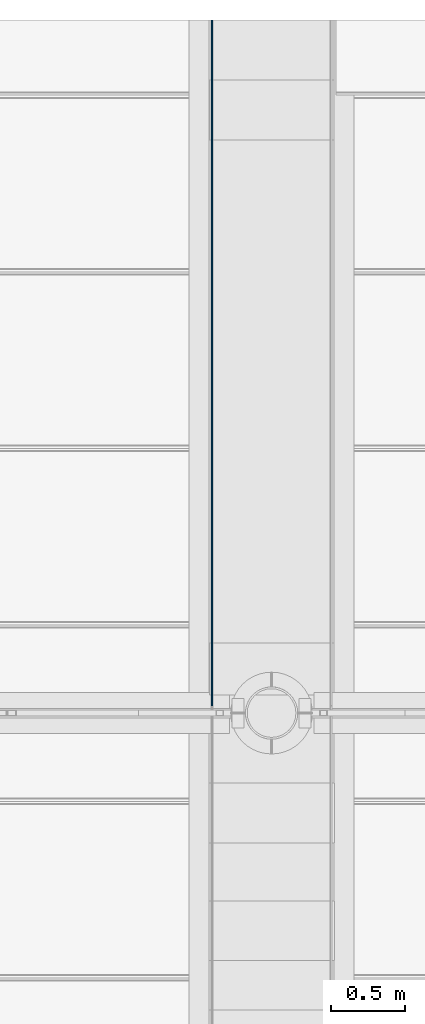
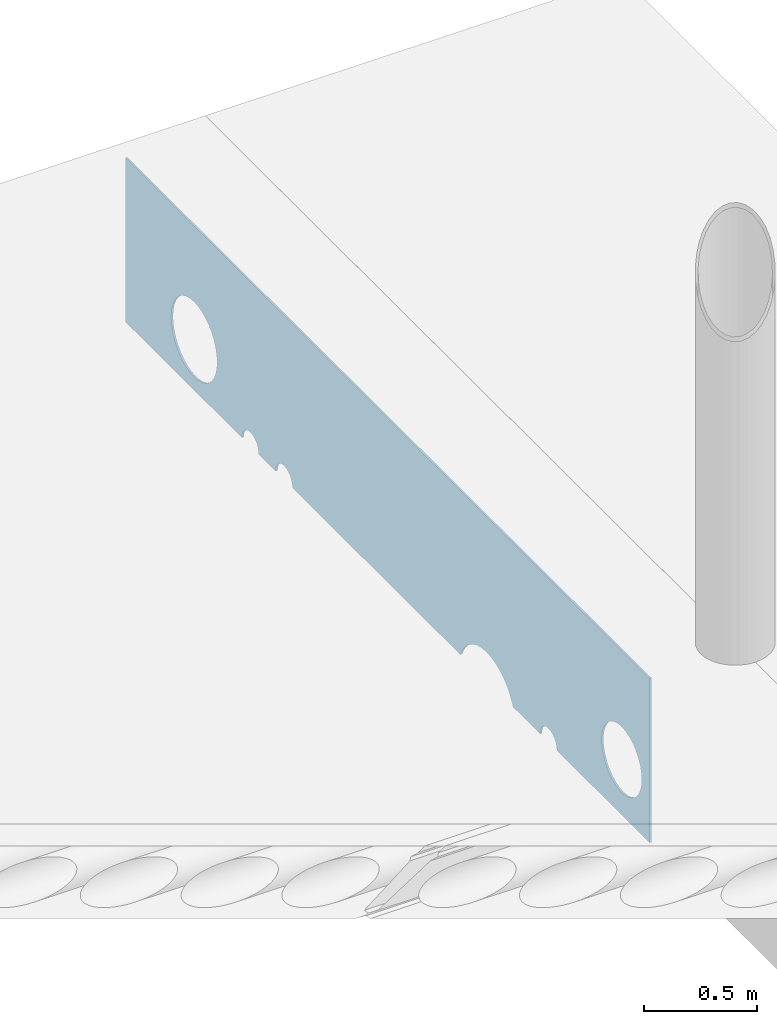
# One storey, part 11 of 21: 1 beam.
"""IFC2X3 building model written with IfcOpenShell, lengths in millimetres."""

from ifc_helpers import new_model, entity, si_unit, converted_unit, derived_unit, direction, frame, origin_with_axes, place, context, subcontext, project, spatial, faceted_brep, type_object, element, save


model = new_model("IFC2X3")

# Units and contexts
model_context = context("Model", 3, precision=0.01, world=frame((0.0, 4.29681676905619e-09, 0.0)), true_north=direction((4.01073788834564e-13, 1.0)))
plan_context = context("Plan", 3, precision=0.01, world=frame((0.0, 4.29681676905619e-09, 0.0)), true_north=direction((4.01073788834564e-13, 1.0)))
body_context = subcontext(model_context, "Body", "Model", "MODEL_VIEW")
ifc_project = project(units=[converted_unit("PLANEANGLEUNIT", "DEGREE", entity("IfcPositiveLengthMeasure", 0.0174532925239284), si_unit("PLANEANGLEUNIT", "RADIAN"), dimensions=[0, 0, 0, 0, 0, 0, 0]), si_unit("AREAUNIT", "SQUARE_METRE"), si_unit("LENGTHUNIT", "METRE", prefix="MILLI"), si_unit("MASSUNIT", "GRAM", prefix="KILO"), si_unit("POWERUNIT", "WATT"), si_unit("PRESSUREUNIT", "PASCAL", prefix="KILO"), si_unit("FORCEUNIT", "NEWTON", prefix="KILO"), si_unit("ELECTRICVOLTAGEUNIT", "VOLT"), si_unit("ELECTRICCURRENTUNIT", "AMPERE"), si_unit("THERMODYNAMICTEMPERATUREUNIT", "DEGREE_CELSIUS"), si_unit("TIMEUNIT", "SECOND"), si_unit("VOLUMEUNIT", "CUBIC_METRE"), derived_unit("LINEARVELOCITYUNIT", [(si_unit("LENGTHUNIT", "METRE"), 1), (si_unit("TIMEUNIT", "SECOND"), -1)]), derived_unit("VOLUMETRICFLOWRATEUNIT", [(si_unit("VOLUMEUNIT", "CUBIC_METRE"), 1), (si_unit("TIMEUNIT", "SECOND"), -1)]), derived_unit("THERMALTRANSMITTANCEUNIT", [(si_unit("POWERUNIT", "WATT"), 1), (si_unit("THERMODYNAMICTEMPERATUREUNIT", "KELVIN"), -1), (si_unit("AREAUNIT", "SQUARE_METRE"), -1)]), derived_unit("SOUNDPRESSUREUNIT", [(si_unit("PRESSUREUNIT", "PASCAL"), 1)])], contexts=[model_context, plan_context])

# Site, building, storey
site_placement = place(None, frame((0.0, -4.29681676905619e-09, 0.0), z_axis=(0.0, 0.0, 1.0), x_axis=(1.0, 0.0, 0.0)))
site = spatial("IfcSite", under=ifc_project, at=site_placement, Name="Gardermoen", CompositionType="ELEMENT")
building_placement = place(site_placement, frame((0.0, 4.29681676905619e-09, 0.0), z_axis=(0.0, 0.0, 1.0), x_axis=(1.0, 0.0, 0.0)))
building = spatial("IfcBuilding", under=site, at=building_placement, Name="TS", CompositionType="ELEMENT")
storey_placement = place(building_placement, origin_with_axes())
storey = spatial("IfcBuildingStorey", under=building, at=storey_placement, Name="F", CompositionType="ELEMENT", Elevation=0.0)

# Beam
beam_type = type_object("IfcBeamType", Name="1470*10", PredefinedType="NOTDEFINED")
beam_placement = place(storey_placement, frame((726595.0, 441550.0, 210055.0), z_axis=(0.0, 0.0, 1.0), x_axis=(0.0, 1.0, 0.0)))
element("IfcBeam", 1, at=beam_placement, inside=storey, type_object=beam_type, Name="STÅLBJELKE", ObjectType="1470*10", context=body_context, shape_type="Brep", body=[
    faceted_brep([(4661.4244638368, 5.0, 735.0), (4661.4244638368, -5.0, 735.0), (0.0, -5.0, 735.0), (0.0, 5.0, 735.0), (0.0, -5.0, -155.0), (0.0, 5.0, -155.0), (428.5, -5.0, 145.0), (428.5, 5.0, 145.0), (425.070172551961, 5.0, 179.823622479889), (425.070172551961, -5.0, 179.823622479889), (425.070172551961, -5.0, 110.176377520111), (425.070172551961, 5.0, 110.176377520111), (414.912496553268, -5.0, 76.6910073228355), (414.912496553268, 5.0, 76.6910073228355), (398.417325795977, -5.0, 45.8307134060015), (398.417325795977, 5.0, 45.8307134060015), (376.218560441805, -5.0, 18.7814395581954), (376.218560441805, 5.0, 18.7814395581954), (349.169286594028, -5.0, -3.41732579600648), (349.169286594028, 5.0, -3.41732579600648), (318.308992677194, -5.0, -19.9124965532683), (318.308992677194, 5.0, -19.9124965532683), (284.82362247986, -5.0, -30.0701725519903), (284.82362247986, 5.0, -30.0701725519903), (250.0, -5.0, -33.5), (250.0, 5.0, -33.5), (215.17637752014, -5.0, -30.0701725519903), (215.17637752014, 5.0, -30.0701725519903), (181.691007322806, -5.0, -19.9124965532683), (181.691007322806, 5.0, -19.9124965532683), (150.830713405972, -5.0, -3.41732579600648), (150.830713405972, 5.0, -3.41732579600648), (123.781439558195, -5.0, 18.7814395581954), (123.781439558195, 5.0, 18.7814395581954), (101.582674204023, -5.0, 45.8307134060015), (101.582674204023, 5.0, 45.8307134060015), (85.0875034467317, -5.0, 76.6910073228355), (85.0875034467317, 5.0, 76.6910073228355), (74.9298274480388, -5.0, 110.176377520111), (74.9298274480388, 5.0, 110.176377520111), (71.5, -5.0, 145.0), (71.5, 5.0, 145.0), (74.9298274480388, -5.0, 179.823622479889), (74.9298274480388, 5.0, 179.823622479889), (85.0875034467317, -5.0, 213.308992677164), (85.0875034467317, 5.0, 213.308992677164), (101.582674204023, -5.0, 244.169286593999), (101.582674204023, 5.0, 244.169286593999), (123.781439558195, -5.0, 271.218560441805), (123.781439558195, 5.0, 271.218560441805), (150.830713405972, -5.0, 293.417325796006), (150.830713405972, 5.0, 293.417325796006), (181.691007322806, -5.0, 309.912496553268), (181.691007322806, 5.0, 309.912496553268), (215.17637752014, -5.0, 320.07017255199), (215.17637752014, 5.0, 320.07017255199), (250.0, -5.0, 323.5), (250.0, 5.0, 323.5), (284.82362247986, -5.0, 320.07017255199), (284.82362247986, 5.0, 320.07017255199), (318.308992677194, -5.0, 309.912496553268), (318.308992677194, 5.0, 309.912496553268), (349.169286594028, -5.0, 293.417325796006), (349.169286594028, 5.0, 293.417325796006), (376.218560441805, -5.0, 271.218560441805), (376.218560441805, 5.0, 271.218560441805), (398.417325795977, -5.0, 244.169286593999), (398.417325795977, 5.0, 244.169286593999), (414.912496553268, -5.0, 213.308992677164), (414.912496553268, 5.0, 213.308992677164), (975.0, -5.0, -155.0), (975.0, 5.0, -155.0), (972.44443697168, 5.0, -135.588571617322), (972.44443697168, -5.0, -135.588571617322), (827.55556302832, -5.0, -135.588571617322), (827.55556302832, 5.0, -135.588571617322), (825.0, 5.0, -155.0), (825.0, -5.0, -155.0), (835.048094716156, -5.0, -117.5), (835.048094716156, 5.0, -117.5), (846.966991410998, -5.0, -101.966991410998), (846.966991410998, 5.0, -101.966991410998), (862.5, -5.0, -90.0480947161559), (862.5, 5.0, -90.0480947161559), (880.588571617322, -5.0, -82.5555630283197), (880.588571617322, 5.0, -82.5555630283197), (900.0, -5.0, -80.0), (900.0, 5.0, -80.0), (919.411428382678, -5.0, -82.5555630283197), (919.411428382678, 5.0, -82.5555630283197), (937.5, -5.0, -90.0480947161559), (937.5, 5.0, -90.0480947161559), (953.033008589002, -5.0, -101.966991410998), (953.033008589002, 5.0, -101.966991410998), (964.951905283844, -5.0, -117.5), (964.951905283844, 5.0, -117.5), (1216.26219191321, 5.0, -155.0), (1216.26219191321, -5.0, -155.0), (1222.79333633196, -5.0, -139.23242256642), (1222.79333633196, 5.0, -139.23242256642), (1243.70066643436, -5.0, -105.114760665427), (1243.70066643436, 5.0, -105.114760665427), (1269.68777079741, -5.0, -74.6877707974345), (1269.68777079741, 5.0, -74.6877707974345), (1300.1147606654, -5.0, -48.7006664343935), (1300.1147606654, 5.0, -48.7006664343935), (1334.23242256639, -5.0, -27.7933363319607), (1334.23242256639, 5.0, -27.7933363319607), (1371.20066643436, -5.0, -12.4805883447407), (1371.20066643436, 5.0, -12.4805883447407), (1410.10921141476, -5.0, -3.13947314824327), (1410.10921141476, 5.0, -3.13947314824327), (1450.0, -5.0, 0.0), (1450.0, 5.0, 0.0), (1489.89078858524, -5.0, -3.13947314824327), (1489.89078858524, 5.0, -3.13947314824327), (1528.79933356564, -5.0, -12.4805883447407), (1528.79933356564, 5.0, -12.4805883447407), (1565.76757743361, -5.0, -27.7933363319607), (1565.76757743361, 5.0, -27.7933363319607), (1599.8852393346, -5.0, -48.7006664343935), (1599.8852393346, 5.0, -48.7006664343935), (1630.31222920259, -5.0, -74.6877707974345), (1630.31222920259, 5.0, -74.6877707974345), (1656.29933356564, -5.0, -105.114760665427), (1656.29933356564, 5.0, -105.114760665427), (1677.20666366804, -5.0, -139.23242256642), (1677.20666366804, 5.0, -139.23242256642), (1683.73780808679, -5.0, -155.0), (1683.73780808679, 5.0, -155.0), (3325.0, -5.0, -155.0), (3325.0, 5.0, -155.0), (3322.44443697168, 5.0, -135.588571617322), (3322.44443697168, -5.0, -135.588571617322), (3177.55556302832, -5.0, -135.588571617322), (3177.55556302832, 5.0, -135.588571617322), (3175.0, 5.0, -155.0), (3175.0, -5.0, -155.0), (3185.04809471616, -5.0, -117.5), (3185.04809471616, 5.0, -117.5), (3196.966991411, -5.0, -101.966991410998), (3196.966991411, 5.0, -101.966991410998), (3212.5, -5.0, -90.0480947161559), (3212.5, 5.0, -90.0480947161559), (3230.58857161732, -5.0, -82.5555630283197), (3230.58857161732, 5.0, -82.5555630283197), (3250.0, -5.0, -80.0), (3250.0, 5.0, -80.0), (3269.41142838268, -5.0, -82.5555630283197), (3269.41142838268, 5.0, -82.5555630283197), (3287.5, -5.0, -90.0480947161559), (3287.5, 5.0, -90.0480947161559), (3303.033008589, -5.0, -101.966991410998), (3303.033008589, 5.0, -101.966991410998), (3314.95190528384, -5.0, -117.5), (3314.95190528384, 5.0, -117.5), (3625.0, -5.0, -155.0), (3625.0, 5.0, -155.0), (3622.44443697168, 5.0, -135.588571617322), (3622.44443697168, -5.0, -135.588571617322), (3477.55556302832, -5.0, -135.588571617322), (3477.55556302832, 5.0, -135.588571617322), (3475.0, 5.0, -155.0), (3475.0, -5.0, -155.0), (3485.04809471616, -5.0, -117.5), (3485.04809471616, 5.0, -117.5), (3496.966991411, -5.0, -101.966991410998), (3496.966991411, 5.0, -101.966991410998), (3512.5, -5.0, -90.0480947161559), (3512.5, 5.0, -90.0480947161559), (3530.58857161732, -5.0, -82.5555630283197), (3530.58857161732, 5.0, -82.5555630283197), (3550.0, -5.0, -80.0), (3550.0, 5.0, -80.0), (3569.41142838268, -5.0, -82.5555630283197), (3569.41142838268, 5.0, -82.5555630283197), (3587.5, -5.0, -90.0480947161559), (3587.5, 5.0, -90.0480947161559), (3603.033008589, -5.0, -101.966991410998), (3603.033008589, 5.0, -101.966991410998), (3614.95190528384, -5.0, -117.5), (3614.95190528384, 5.0, -117.5), (4254.0, -5.0, 120.0), (4254.0, 5.0, 120.0), (4250.90078161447, 5.0, 155.424228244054), (4250.90078161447, -5.0, 155.424228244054), (4250.90078161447, -5.0, 84.5757717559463), (4250.90078161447, 5.0, 84.5757717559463), (4241.69729464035, -5.0, 50.2278907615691), (4241.69729464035, 5.0, 50.2278907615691), (4226.66918237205, -5.0, 18.0), (4226.66918237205, 5.0, 18.0), (4206.27306639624, -5.0, -11.1286723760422), (4206.27306639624, 5.0, -11.1286723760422), (4181.12867237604, -5.0, -36.273066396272), (4181.12867237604, 5.0, -36.273066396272), (4152.0, -5.0, -56.6691823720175), (4152.0, 5.0, -56.6691823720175), (4119.77210923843, -5.0, -71.6972946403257), (4119.77210923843, 5.0, -71.6972946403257), (4085.42422824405, -5.0, -80.9007816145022), (4085.42422824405, 5.0, -80.9007816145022), (4050.0, -5.0, -84.0), (4050.0, 5.0, -84.0), (4014.57577175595, -5.0, -80.9007816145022), (4014.57577175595, 5.0, -80.9007816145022), (3980.22789076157, -5.0, -71.6972946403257), (3980.22789076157, 5.0, -71.6972946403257), (3948.0, -5.0, -56.6691823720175), (3948.0, 5.0, -56.6691823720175), (3918.87132762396, -5.0, -36.273066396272), (3918.87132762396, 5.0, -36.273066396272), (3893.72693360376, -5.0, -11.1286723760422), (3893.72693360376, 5.0, -11.1286723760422), (3873.33081762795, -5.0, 18.0), (3873.33081762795, 5.0, 18.0), (3858.3027053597, -5.0, 50.2278907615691), (3858.3027053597, 5.0, 50.2278907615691), (3849.09921838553, -5.0, 84.5757717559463), (3849.09921838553, 5.0, 84.5757717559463), (3846.0, -5.0, 120.0), (3846.0, 5.0, 120.0), (3849.09921838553, -5.0, 155.424228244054), (3849.09921838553, 5.0, 155.424228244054), (3858.3027053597, -5.0, 189.772109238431), (3858.3027053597, 5.0, 189.772109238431), (3873.33081762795, -5.0, 222.0), (3873.33081762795, 5.0, 222.0), (3893.72693360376, -5.0, 251.128672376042), (3893.72693360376, 5.0, 251.128672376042), (3918.87132762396, -5.0, 276.273066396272), (3918.87132762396, 5.0, 276.273066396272), (3948.0, -5.0, 296.669182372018), (3948.0, 5.0, 296.669182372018), (3980.22789076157, -5.0, 311.697294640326), (3980.22789076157, 5.0, 311.697294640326), (4014.57577175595, -5.0, 320.900781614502), (4014.57577175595, 5.0, 320.900781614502), (4050.0, -5.0, 324.0), (4050.0, 5.0, 324.0), (4085.42422824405, -5.0, 320.900781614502), (4085.42422824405, 5.0, 320.900781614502), (4119.77210923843, -5.0, 311.697294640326), (4119.77210923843, 5.0, 311.697294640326), (4152.0, -5.0, 296.669182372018), (4152.0, 5.0, 296.669182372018), (4181.12867237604, -5.0, 276.273066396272), (4181.12867237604, 5.0, 276.273066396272), (4206.27306639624, -5.0, 251.128672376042), (4206.27306639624, 5.0, 251.128672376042), (4226.66918237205, -5.0, 222.0), (4226.66918237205, 5.0, 222.0), (4241.69729464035, -5.0, 189.772109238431), (4241.69729464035, 5.0, 189.772109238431), (4661.4244638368, -5.0, -155.0), (4661.4244638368, 5.0, -155.0)], [[[0, 1, 2, 3]], [[4, 5, 3, 2]], [[6, 7, 8, 9]], [[10, 11, 7, 6]], [[12, 13, 11, 10]], [[14, 15, 13, 12]], [[16, 17, 15, 14]], [[18, 19, 17, 16]], [[20, 21, 19, 18]], [[22, 23, 21, 20]], [[24, 25, 23, 22]], [[26, 27, 25, 24]], [[28, 29, 27, 26]], [[30, 31, 29, 28]], [[32, 33, 31, 30]], [[34, 35, 33, 32]], [[36, 37, 35, 34]], [[38, 39, 37, 36]], [[40, 41, 39, 38]], [[42, 43, 41, 40]], [[44, 45, 43, 42]], [[46, 47, 45, 44]], [[48, 49, 47, 46]], [[50, 51, 49, 48]], [[52, 53, 51, 50]], [[54, 55, 53, 52]], [[56, 57, 55, 54]], [[58, 59, 57, 56]], [[60, 61, 59, 58]], [[62, 63, 61, 60]], [[64, 65, 63, 62]], [[66, 67, 65, 64]], [[68, 69, 67, 66]], [[9, 8, 69, 68]], [[70, 71, 72, 73]], [[74, 75, 76, 77]], [[78, 79, 75, 74]], [[80, 81, 79, 78]], [[82, 83, 81, 80]], [[84, 85, 83, 82]], [[86, 87, 85, 84]], [[88, 89, 87, 86]], [[90, 91, 89, 88]], [[92, 93, 91, 90]], [[94, 95, 93, 92]], [[73, 72, 95, 94]], [[96, 97, 98, 99]], [[100, 101, 99, 98]], [[102, 103, 101, 100]], [[104, 105, 103, 102]], [[106, 107, 105, 104]], [[108, 109, 107, 106]], [[110, 111, 109, 108]], [[112, 113, 111, 110]], [[114, 115, 113, 112]], [[116, 117, 115, 114]], [[118, 119, 117, 116]], [[120, 121, 119, 118]], [[122, 123, 121, 120]], [[124, 125, 123, 122]], [[126, 127, 125, 124]], [[128, 129, 127, 126]], [[130, 131, 132, 133]], [[134, 135, 136, 137]], [[138, 139, 135, 134]], [[140, 141, 139, 138]], [[142, 143, 141, 140]], [[144, 145, 143, 142]], [[146, 147, 145, 144]], [[148, 149, 147, 146]], [[150, 151, 149, 148]], [[152, 153, 151, 150]], [[154, 155, 153, 152]], [[133, 132, 155, 154]], [[156, 157, 158, 159]], [[160, 161, 162, 163]], [[164, 165, 161, 160]], [[166, 167, 165, 164]], [[168, 169, 167, 166]], [[170, 171, 169, 168]], [[172, 173, 171, 170]], [[174, 175, 173, 172]], [[176, 177, 175, 174]], [[178, 179, 177, 176]], [[180, 181, 179, 178]], [[159, 158, 181, 180]], [[182, 183, 184, 185]], [[186, 187, 183, 182]], [[188, 189, 187, 186]], [[190, 191, 189, 188]], [[192, 193, 191, 190]], [[194, 195, 193, 192]], [[196, 197, 195, 194]], [[198, 199, 197, 196]], [[200, 201, 199, 198]], [[202, 203, 201, 200]], [[204, 205, 203, 202]], [[206, 207, 205, 204]], [[208, 209, 207, 206]], [[210, 211, 209, 208]], [[212, 213, 211, 210]], [[214, 215, 213, 212]], [[216, 217, 215, 214]], [[218, 219, 217, 216]], [[220, 221, 219, 218]], [[222, 223, 221, 220]], [[224, 225, 223, 222]], [[226, 227, 225, 224]], [[228, 229, 227, 226]], [[230, 231, 229, 228]], [[232, 233, 231, 230]], [[234, 235, 233, 232]], [[236, 237, 235, 234]], [[238, 239, 237, 236]], [[240, 241, 239, 238]], [[242, 243, 241, 240]], [[244, 245, 243, 242]], [[246, 247, 245, 244]], [[248, 249, 247, 246]], [[250, 251, 249, 248]], [[252, 253, 251, 250]], [[185, 184, 253, 252]], [[1, 254, 156, 159, 180, 178, 176, 174, 172, 170, 168, 166, 164, 160, 163, 130, 133, 154, 152, 150, 148, 146, 144, 142, 140, 138, 134, 137, 128, 126, 124, 122, 120, 118, 116, 114, 112, 110, 108, 106, 104, 102, 100, 98, 97, 70, 73, 94, 92, 90, 88, 86, 84, 82, 80, 78, 74, 77, 4, 2], [186, 182, 185, 252, 250, 248, 246, 244, 242, 240, 238, 236, 234, 232, 230, 228, 226, 224, 222, 220, 218, 216, 214, 212, 210, 208, 206, 204, 202, 200, 198, 196, 194, 192, 190, 188], [10, 6, 9, 68, 66, 64, 62, 60, 58, 56, 54, 52, 50, 48, 46, 44, 42, 40, 38, 36, 34, 32, 30, 28, 26, 24, 22, 20, 18, 16, 14, 12]], [[5, 76, 75, 79, 81, 83, 85, 87, 89, 91, 93, 95, 72, 71, 96, 99, 101, 103, 105, 107, 109, 111, 113, 115, 117, 119, 121, 123, 125, 127, 129, 136, 135, 139, 141, 143, 145, 147, 149, 151, 153, 155, 132, 131, 162, 161, 165, 167, 169, 171, 173, 175, 177, 179, 181, 158, 157, 255, 0, 3], [184, 183, 187, 189, 191, 193, 195, 197, 199, 201, 203, 205, 207, 209, 211, 213, 215, 217, 219, 221, 223, 225, 227, 229, 231, 233, 235, 237, 239, 241, 243, 245, 247, 249, 251, 253], [8, 7, 11, 13, 15, 17, 19, 21, 23, 25, 27, 29, 31, 33, 35, 37, 39, 41, 43, 45, 47, 49, 51, 53, 55, 57, 59, 61, 63, 65, 67, 69]], [[254, 1, 0, 255]], [[255, 157, 156, 254]], [[77, 76, 5, 4]], [[97, 96, 71, 70]], [[137, 136, 129, 128]], [[163, 162, 131, 130]]], orient=[[False], [False], [False], [False], [False], [False], [False], [False], [False], [False], [False], [False], [False], [False], [False], [False], [False], [False], [False], [False], [False], [False], [False], [False], [False], [False], [False], [False], [False], [False], [False], [False], [False], [False], [False], [False], [False], [False], [False], [False], [False], [False], [False], [False], [False], [False], [False], [False], [False], [False], [False], [False], [False], [False], [False], [False], [False], [False], [False], [False], [False], [False], [False], [False], [False], [False], [False], [False], [False], [False], [False], [False], [False], [False], [False], [False], [False], [False], [False], [False], [False], [False], [False], [False], [False], [False], [False], [False], [False], [False], [False], [False], [False], [False], [False], [False], [False], [False], [False], [False], [False], [False], [False], [False], [False], [False], [False], [False], [False], [False], [False], [False], [False], [False], [False], [False], [False], [False], [False], [False], [False], [False], [False, False, False], [False, False, False], [False], [False], [False], [False], [False], [False]]),
])

save(model, "model.ifc")
